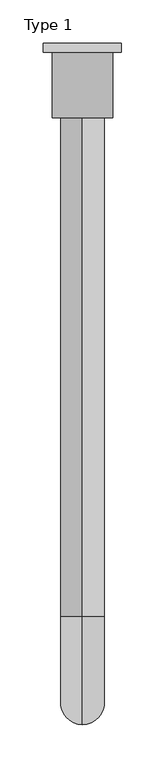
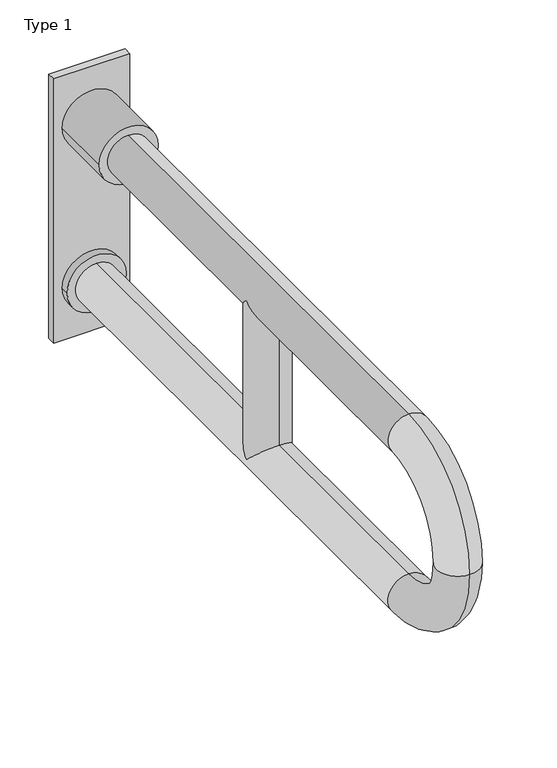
"""IFC4 building model written with IfcOpenShell, lengths in millimetres: proxy geometry, BIMHealth-Grab_Rail_Drop_Down-LOD2A-v1 : Type 1."""

from ifc_helpers import new_model, si_unit, point, frame, frame_2d, origin, place, context, project, spatial, polyline, circle_curve, ellipse_curve, trimmed, segment, composite_curve, outline, extrude, source, transform, mapped, element, save
from ifc_brep_helpers import plane_surface, cylinder_surface, revolved_surface, advanced_brep


def type_1_f275d547(model_context):
    return source(origin(), model_context, "Body", "SolidModel", [
        advanced_brep(
        [(125.0, -135.7700007, 655.0), (125.0, -135.7700007, 705.0), (125.0, -70.0, 505.0), (125.0, -70.0, 455.0), (125.0, -710.0, 705.0), (125.0, -710.0, 655.0), (125.0, -445.0, 655.0), (150.0, -420.0, 680.0), (125.0, -395.0, 655.0), (100.0, -420.0, 680.0), (125.0, -835.0, 580.0), (125.0, -785.0, 580.0), (125.0, -710.0, 455.0), (125.0, -710.0, 505.0), (125.0, -395.0, 505.0), (150.0, -420.0, 480.0), (125.0, -445.0, 505.0), (100.0, -420.0, 480.0)],
        [
            (0, 1, circle_curve(frame((125.0, -135.7700007, 680.0), z_axis=(0.0, 1.0, 0.0), x_axis=(0.0, 0.0, 1.0)), 25.0)),
            (1, 0, circle_curve(frame((125.0, -135.7700007, 680.0), z_axis=(0.0, 1.0, 0.0), x_axis=(0.0, 0.0, 1.0)), 25.0)),
            (2, 3, circle_curve(frame((125.0, -70.0, 480.0), z_axis=(0.0, 1.0, 0.0), x_axis=(0.0, 0.0, -1.0)), 25.0)),
            (3, 2, circle_curve(frame((125.0, -70.0, 480.0), z_axis=(0.0, 1.0, 0.0), x_axis=(0.0, 0.0, -1.0)), 25.0)),
            (1, 4),
            (4, 5, circle_curve(frame((125.0, -710.0, 680.0), z_axis=(0.0, 1.0, 0.0), x_axis=(0.0, 0.0, 1.0)), 25.0)),
            (5, 6),
            (6, 7, ellipse_curve(frame((125.0, -420.0, 680.0), z_axis=(0.0, -0.7071067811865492, 0.7071067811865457), x_axis=(0.0, 0.7071067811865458, 0.7071067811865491)), 35.3553391, 25.0)),
            (7, 8, ellipse_curve(frame((125.0, -420.0, 680.0), z_axis=(0.0, 0.7071067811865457, 0.7071067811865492), x_axis=(0.0, 0.7071067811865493, -0.7071067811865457)), 35.3553391, 25.0)),
            (8, 0),
            (8, 9, ellipse_curve(frame((125.0, -420.0, 680.0), z_axis=(0.0, 0.7071067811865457, 0.7071067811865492), x_axis=(0.0, 0.7071067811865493, -0.7071067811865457)), 35.3553391, 25.0)),
            (9, 6, ellipse_curve(frame((125.0, -420.0, 680.0), z_axis=(0.0, -0.7071067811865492, 0.7071067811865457), x_axis=(0.0, 0.7071067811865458, 0.7071067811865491)), 35.3553391, 25.0)),
            (5, 4, circle_curve(frame((125.0, -710.0, 680.0), z_axis=(0.0, 1.0, 0.0), x_axis=(0.0, 0.0, 1.0)), 25.0)),
            (4, 10, circle_curve(frame((125.0, -710.0, 580.0), z_axis=(1.0, 0.0, 0.0), x_axis=(0.0, 0.0, 1.0)), 125.0)),
            (10, 11, circle_curve(frame((125.0, -810.0, 580.0), z_axis=(0.0, 0.0, 1.0), x_axis=(0.0, -1.0, 0.0)), 25.0)),
            (11, 5, circle_curve(frame((125.0, -710.0, 580.0), z_axis=(-1.0, 0.0, 0.0), x_axis=(0.0, 0.0, 1.0)), 75.0)),
            (11, 10, circle_curve(frame((125.0, -810.0, 580.0), z_axis=(0.0, 0.0, 1.0), x_axis=(0.0, -1.0, 0.0)), 25.0)),
            (10, 12, circle_curve(frame((125.0, -710.0, 580.0), z_axis=(1.0, 0.0, 0.0), x_axis=(0.0, -1.0, 0.0)), 125.0)),
            (12, 13, circle_curve(frame((125.0, -710.0, 480.0), z_axis=(0.0, -1.0, 0.0), x_axis=(0.0, 0.0, -1.0)), 25.0)),
            (13, 11, circle_curve(frame((125.0, -710.0, 580.0), z_axis=(-1.0, 0.0, 0.0), x_axis=(0.0, -1.0, 0.0)), 75.0)),
            (13, 12, circle_curve(frame((125.0, -710.0, 480.0), z_axis=(0.0, -1.0, 0.0), x_axis=(0.0, 0.0, -1.0)), 25.0)),
            (2, 14),
            (14, 15, ellipse_curve(frame((125.0, -420.0, 480.0), z_axis=(0.0, 0.7071067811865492, -0.7071067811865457), x_axis=(0.0, -0.7071067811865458, -0.7071067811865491)), 35.3553391, 25.0)),
            (15, 16, ellipse_curve(frame((125.0, -420.0, 480.0), z_axis=(0.0, -0.7071067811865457, -0.7071067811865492), x_axis=(0.0, -0.7071067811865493, 0.7071067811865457)), 35.3553391, 25.0)),
            (16, 13),
            (12, 3),
            (16, 17, ellipse_curve(frame((125.0, -420.0, 480.0), z_axis=(0.0, -0.7071067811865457, -0.7071067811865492), x_axis=(0.0, -0.7071067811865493, 0.7071067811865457)), 35.3553391, 25.0)),
            (17, 14, ellipse_curve(frame((125.0, -420.0, 480.0), z_axis=(0.0, 0.7071067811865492, -0.7071067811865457), x_axis=(0.0, -0.7071067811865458, -0.7071067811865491)), 35.3553391, 25.0)),
            (6, 16),
            (14, 8),
        ],
        [
            plane_surface(frame((125.0, -135.7700007, 680.0), z_axis=(0.0, 1.0, 0.0), x_axis=(1.0, 0.0, 0.0))),
            plane_surface(frame((125.0, -70.0, 480.0), z_axis=(0.0, 1.0, 0.0), x_axis=(1.0, 0.0, 0.0))),
            cylinder_surface(frame((125.0, -135.7700007, 680.0), z_axis=(0.0, 1.0, 0.0), x_axis=(0.0, 0.0, 1.0)), 25.0),
            revolved_surface(trimmed(ellipse_curve(frame((125.0, -710.0, 680.0), z_axis=(0.0, -1.0, 0.0), x_axis=(0.0, 0.0, 1.0)), 25.0, 25.0), [point((125.0, -710.0, 655.0))], [point((125.0, -710.0, 705.0))], True, "CARTESIAN"), (125.0, -710.0, 580.0), (-1.0, 0.0, 0.0)),
            revolved_surface(trimmed(ellipse_curve(frame((125.0, -710.0, 680.0), z_axis=(0.0, -1.0, 0.0), x_axis=(0.0, 0.0, 1.0)), 25.0, 25.0), [point((125.0, -710.0, 705.0))], [point((125.0, -710.0, 655.0))], True, "CARTESIAN"), (125.0, -710.0, 580.0), (-1.0, 0.0, 0.0)),
            revolved_surface(trimmed(ellipse_curve(frame((125.0, -810.0, 580.0), z_axis=(0.0, 0.0, -1.0), x_axis=(0.0, -1.0, 0.0)), 25.0, 25.0), [point((125.0, -785.0, 580.0))], [point((125.0, -835.0, 580.0))], True, "CARTESIAN"), (125.0, -710.0, 580.0), (-1.0, 0.0, 0.0)),
            revolved_surface(trimmed(ellipse_curve(frame((125.0, -810.0, 580.0), z_axis=(0.0, 0.0, -1.0), x_axis=(0.0, -1.0, 0.0)), 25.0, 25.0), [point((125.0, -835.0, 580.0))], [point((125.0, -785.0, 580.0))], True, "CARTESIAN"), (125.0, -710.0, 580.0), (-1.0, 0.0, 0.0)),
            cylinder_surface(frame((125.0, -710.0, 480.0), z_axis=(0.0, -1.0, 0.0), x_axis=(0.0, 0.0, -1.0)), 25.0),
            cylinder_surface(frame((125.0, -420.0, 480.0), z_axis=(0.0, 0.0, -1.0), x_axis=(0.0, 1.0, 0.0)), 25.0),
        ],
        [
            (0, [[1, 2]]),
            (1, [[3, 4]]),
            (2, [[5, 6, 7, 8, 9, 10, -2]]),
            (2, [[-10, 11, 12, -7, 13, -5, -1]]),
            (3, [[14, 15, 16, -6]]),
            (4, [[-16, 17, -14, -13]]),
            (5, [[18, 19, 20, -15]]),
            (6, [[-20, 21, -18, -17]]),
            (7, [[22, 23, 24, 25, -19, 26, -3]]),
            (7, [[-26, -21, -25, 27, 28, -22, -4]]),
            (8, [[-9, -8, 29, -24, -23, 30]]),
            (8, [[-28, -27, -29, -12, -11, -30]]),
        ],
    ),
        extrude(outline(composite_curve([segment(trimmed(circle_curve(frame_2d((680.0, 125.0)), 35.0), [point((680.0, 160.0))], [point((680.0, 90.0))], False, "CARTESIAN"), True, "CONTINUOUS"), segment(trimmed(circle_curve(frame_2d((680.0, 125.0)), 35.0), [point((680.0, 90.0))], [point((680.0, 160.0))], False, "CARTESIAN"), True, "CONTINUOUS")], self_intersect=False)), frame((0.0, -135.7700007, 0.0), z_axis=(0.0, 1.0, 0.0), x_axis=(0.0, 0.0, 1.0)), (0.0, 0.0, 1.0), 75.7700007),
        extrude(outline(composite_curve([segment(trimmed(circle_curve(frame_2d((480.0, 125.0)), 35.0), [point((480.0, 160.0))], [point((480.0, 90.0))], False, "CARTESIAN"), True, "CONTINUOUS"), segment(trimmed(circle_curve(frame_2d((480.0, 125.0)), 35.0), [point((480.0, 90.0))], [point((480.0, 160.0))], False, "CARTESIAN"), True, "CONTINUOUS")], self_intersect=False)), frame((0.0, -70.0, 0.0), z_axis=(0.0, 1.0, 0.0), x_axis=(0.0, 0.0, 1.0)), (0.0, 0.0, 1.0), 10.0),
        extrude(outline(polyline([(170.0, -50.0), (170.0, -60.0), (80.0, -60.0), (80.0, -50.0), (170.0, -50.0)])), frame((0.0, 0.0, 415.0), z_axis=(0.0, 0.0, 1.0), x_axis=(1.0, 0.0, 0.0)), (0.0, 0.0, 1.0), 330.0),
    ])


if __name__ == "__main__":
    model = new_model("IFC4")
    model_context = context("Model", 3, world=origin())
    ifc_project = project(units=[si_unit("LENGTHUNIT", "METRE", prefix="MILLI")], contexts=[model_context])
    site = spatial("IfcSite", under=ifc_project)
    building = spatial("IfcBuilding", under=site)
    placement = place(None, origin())
    type_1_shape = type_1_f275d547(model_context)
    element("IfcBuildingElementProxy", 1, Name="BIMHealth-Grab_Rail_Drop_Down-LOD2A-v1 : Type 1", ObjectType="BIMHealth-Grab_Rail_Drop_Down-LOD2A-v1 : Type 1", at=placement, inside=building, context=model_context, shape_type="MappedRepresentation", body=[
        mapped(type_1_shape, transform((0.0, 0.0, 0.0), x_axis=(1.0, 0.0, 0.0), y_axis=(0.0, 1.0, 0.0), z_axis=(0.0, 0.0, 1.0))),
    ])
    save(model, "model.ifc")
